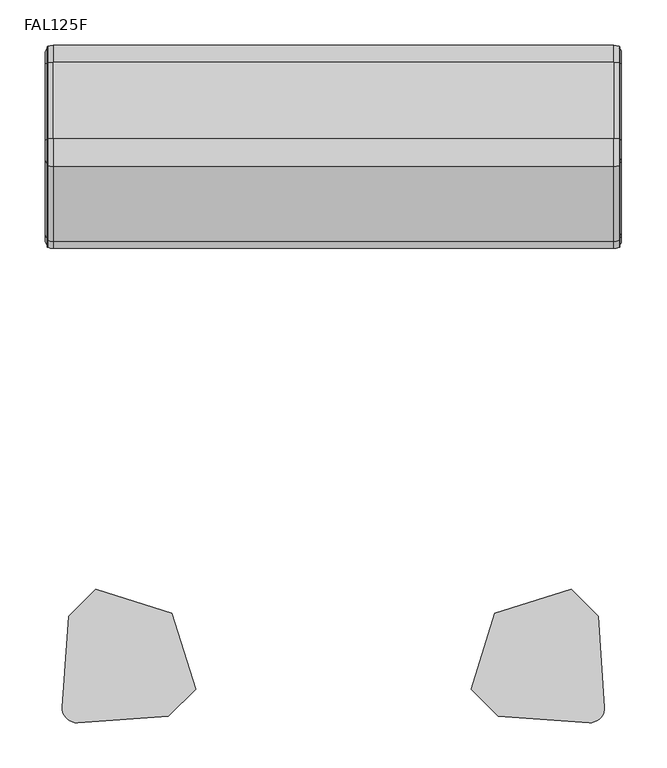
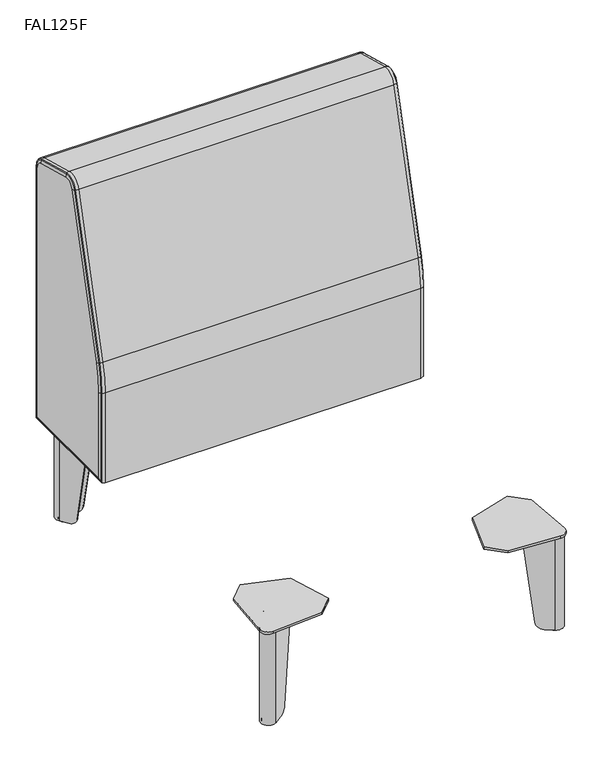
"""IFC4 building model written with IfcOpenShell, lengths in millimetres: furniture geometry, Stance_HC-Flora-Seat_Straight : FAL125F."""

from ifc_helpers import new_model, si_unit, point, frame, frame_2d, origin, origin_with_axes, place, context, project, spatial, polyline, circle_curve, ellipse_curve, trimmed, segment, composite_curve, outline, extrude, source, transform, mapped, element, save
from ifc_brep_helpers import plane_surface, cylinder_surface, revolved_surface, advanced_brep


def fal125f_d0898467(model_context):
    return source(origin(), model_context, "Body", "SolidModel", [
        extrude(outline(composite_curve([segment(trimmed(circle_curve(frame_2d((600.4438064, -31.3811988)), 15.8749964), [point((599.3364228, -15.5448732))], [point((616.2801321, -32.4885822))], False, "CARTESIAN"), True, "CONTINUOUS"), segment(polyline([(616.2801321, -32.4885822), (609.2831602, -132.5499778), (579.4327865, -162.4003462), (495.4896864, -136.3353271), (469.4246518, -52.3922188), (499.2750239, -22.5418467), (599.3364228, -15.5448732)]), True, "CONTINUOUS")], self_intersect=False)), frame((0.0, 0.0, 193.6877233), z_axis=(0.0, 0.0, 1.0), x_axis=(1.0, 0.0, 0.0)), (0.0, 0.0, 1.0), 4.7751809),
        extrude(outline(composite_curve([segment(polyline([(579.1692791, -729.4814086), (599.3063601, -709.3443276), (608.6225874, -722.6492273)]), True, "CONTINUOUS"), segment(trimmed(circle_curve(frame_2d((599.1246983, -729.2997467)), 11.5947965), [point((608.6225874, -722.6492273))], [point((592.4741789, -738.7976359))], False, "CARTESIAN"), True, "CONTINUOUS"), segment(polyline([(592.4741789, -738.7976359), (579.1692791, -729.4814086)]), True, "CONTINUOUS")], self_intersect=False)), frame((0.0, 0.0, 3.175), z_axis=(0.0, 0.0, 1.0), x_axis=(1.0, 0.0, 0.0)), (0.0, 0.0, 1.0), 3.3792927),
        advanced_brep(
        [(579.3314582, -675.2134177, 193.6877233), (576.6984809, -677.0570554, 193.6877233), (608.6225874, -722.6492273, 193.6877233), (592.4741789, -738.7976359, 193.6877233), (546.8820096, -706.8735312, 193.6877233), (545.0383719, -709.5065086, 193.6877233), (590.6305412, -741.4306132, 193.6877233), (611.2555647, -720.8055896, 193.6877233), (579.3314582, -675.2134177, 189.1419595), (589.3247818, -695.0892118, 17.1280233), (598.5018779, -708.1954123, 3.1876992), (608.6225874, -722.6492273, 3.1876992), (592.4741789, -738.7976359, 3.1876992), (578.0203639, -728.6769263, 3.1876992), (564.9141633, -719.4998302, 17.1280233), (545.0383719, -709.5065086, 189.1419334), (562.6062656, -721.8077279, 17.1280233), (575.7124662, -730.984824, 3.1876992), (590.6305412, -741.4306132, 3.1876992), (611.2555647, -720.8055896, 3.1876992), (600.8097756, -705.8875146, 3.1876992), (591.6326795, -692.781314, 17.1280233)],
        [
            (0, 1),
            (1, 2),
            (2, 3, circle_curve(frame((599.1246983, -729.2997467, 193.6877233), z_axis=(0.0, 0.0, -1.0), x_axis=(-1.0, 0.0, 0.0)), 11.5947965)),
            (3, 4),
            (4, 5),
            (5, 6),
            (6, 7, circle_curve(frame((599.1246983, -729.2997467, 193.6877233), z_axis=(0.0, 0.0, 1.0), x_axis=(-1.0, 0.0, 0.0)), 14.8090724)),
            (7, 0),
            (0, 8),
            (8, 1),
            (1, 9),
            (9, 10, ellipse_curve(frame((598.5018779, -708.1954123, 19.0626992), z_axis=(-0.8191509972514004, -0.5735779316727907, 0.0), x_axis=(-0.5735779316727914, 0.8191509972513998, 0.0)), 16.1198923, 15.875)),
            (10, 11),
            (11, 2),
            (11, 12, circle_curve(frame((599.1246983, -729.2997467, 3.1876992), z_axis=(0.0, 0.0, -1.0), x_axis=(-1.0, 0.0, 0.0)), 11.5947965)),
            (12, 3),
            (12, 13),
            (13, 14, ellipse_curve(frame((578.0203639, -728.6769263, 19.0626992), z_axis=(0.5735779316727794, 0.8191509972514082, 0.0), x_axis=(0.8191509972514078, -0.5735779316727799, 0.0)), 16.1198923, 15.875)),
            (14, 4),
            (4, 15),
            (15, 5),
            (15, 16),
            (16, 17, ellipse_curve(frame((575.7124662, -730.984824, 19.0626992), z_axis=(-0.5735779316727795, -0.8191509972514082, 0.0), x_axis=(0.8191509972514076, -0.5735779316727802, 0.0)), 16.1198923, 15.875)),
            (17, 18),
            (18, 6),
            (18, 19, circle_curve(frame((599.1246983, -729.2997467, 3.1876992), z_axis=(0.0, 0.0, 1.0), x_axis=(-1.0, 0.0, 0.0)), 14.8090724)),
            (19, 7),
            (19, 20),
            (20, 21, ellipse_curve(frame((600.8097756, -705.8875146, 19.0626992), z_axis=(0.8191509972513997, 0.5735779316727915, 0.0), x_axis=(-0.573577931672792, 0.8191509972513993, 0.0)), 16.1198923, 15.875)),
            (21, 8),
            (14, 16),
            (21, 9),
            (17, 13),
            (10, 20),
        ],
        [
            plane_surface(frame((576.6984809, -677.0570554, 193.6877233), z_axis=(0.0, 0.0, 0.9999999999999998), x_axis=(-0.8191509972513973, -0.5735779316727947, 0.0))),
            plane_surface(frame((579.3314582, -675.2134177, 193.6877233), z_axis=(-0.5735779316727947, 0.8191509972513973, 0.0), x_axis=(0.0, 0.0, -1.0))),
            plane_surface(frame((576.6984809, -677.0570554, 193.6877233), z_axis=(-0.8191509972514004, -0.5735779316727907, 0.0), x_axis=(0.0, 0.0, -1.0))),
            revolved_surface(polyline([(587.5299018, -729.2997467, 3.1876992), (587.5299018, -729.2997467, 193.6877233)]), (599.1246983, -729.2997467, 0.0), (0.0, 0.0, -1.0)),
            plane_surface(frame((592.4741789, -738.7976359, 193.6877233), z_axis=(0.5735779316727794, 0.8191509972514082, 0.0), x_axis=(0.0, 0.0, -1.0))),
            plane_surface(frame((546.8820096, -706.8735312, 193.6877233), z_axis=(-0.8191509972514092, 0.5735779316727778, 0.0), x_axis=(0.0, 0.0, -1.0))),
            plane_surface(frame((545.0383719, -709.5065086, 193.6877233), z_axis=(-0.5735779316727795, -0.8191509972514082, 0.0), x_axis=(0.0, 0.0, -1.0))),
            cylinder_surface(frame((599.1246983, -729.2997467, 0.0), z_axis=(0.0, 0.0, 1.0), x_axis=(-1.0, 0.0, 0.0)), 14.8090724),
            plane_surface(frame((611.2555647, -720.8055896, 193.6877233), z_axis=(0.8191509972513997, 0.5735779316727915, 0.0), x_axis=(0.0, 0.0, -1.0))),
            plane_surface(frame((556.7224625, -727.6915311, 17.1280233), z_axis=(-0.7018361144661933, 0.7018361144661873, -0.12186934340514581), x_axis=(0.7071067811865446, 0.7071067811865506, 0.0))),
            plane_surface(frame((589.212818, -760.1818865, 3.1876992), z_axis=(0.0, 0.0, -1.0), x_axis=(0.7071067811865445, 0.7071067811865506, 0.0))),
            cylinder_surface(frame((608.6497538, -698.0475363, 19.0626992), z_axis=(0.7071067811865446, 0.7071067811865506, 0.0), x_axis=(-0.7071067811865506, 0.7071067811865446, 0.0)), 15.875),
        ],
        [
            (0, [[1, 2, 3, 4, 5, 6, 7, 8]]),
            (1, [[-1, 9, 10]]),
            (2, [[-2, 11, 12, 13, 14]]),
            (3, [[-3, -14, 15, 16]]),
            (4, [[-4, -16, 17, 18, 19]]),
            (5, [[-5, 20, 21]]),
            (6, [[-6, -21, 22, 23, 24, 25]]),
            (7, [[-7, -25, 26, 27]]),
            (8, [[-8, -27, 28, 29, 30, -9]]),
            (9, [[31, -22, -20, -19]]),
            (9, [[32, -11, -10, -30]]),
            (10, [[33, -17, -15, -13, 34, -28, -26, -24]]),
            (11, [[-31, -18, -33, -23]]),
            (11, [[-32, -29, -34, -12]]),
        ],
    ),
        extrude(outline(composite_curve([segment(trimmed(circle_curve(frame_2d((597.0913541, -727.2747796)), 11.1125), [point((608.2038541, -727.2747796))], [point((585.9788541, -727.2747796))], False, "CARTESIAN"), True, "CONTINUOUS"), segment(trimmed(circle_curve(frame_2d((597.0913541, -727.2747796)), 11.1125), [point((585.9788541, -727.2747796))], [point((608.2038541, -727.2747796))], False, "CARTESIAN"), True, "CONTINUOUS")], self_intersect=False)), origin_with_axes(), (0.0, 0.0, 1.0), 3.175),
        extrude(outline(composite_curve([segment(polyline([(599.3364228, -746.4551813), (499.2750239, -739.4582078), (469.4246518, -709.6078357), (495.4896864, -625.6647274), (579.4327865, -599.5997083), (609.2831602, -629.4500767), (616.2801321, -729.5114723)]), True, "CONTINUOUS"), segment(trimmed(circle_curve(frame_2d((600.4438064, -730.6188557)), 15.8749964), [point((616.2801321, -729.5114723))], [point((599.3364228, -746.4551813))], False, "CARTESIAN"), True, "CONTINUOUS")], self_intersect=False)), frame((0.0, 0.0, 193.6877233), z_axis=(0.0, 0.0, 1.0), x_axis=(1.0, 0.0, 0.0)), (0.0, 0.0, 1.0), 4.7751809),
        extrude(outline(composite_curve([segment(polyline([(55.8307262, -729.4814086), (42.5258264, -738.7976359)]), True, "CONTINUOUS"), segment(trimmed(circle_curve(frame_2d((35.875307, -729.2997467)), 11.5947965), [point((42.5258264, -738.7976359))], [point((26.3774179, -722.6492273))], False, "CARTESIAN"), True, "CONTINUOUS"), segment(polyline([(26.3774179, -722.6492273), (35.6936452, -709.3443276), (55.8307262, -729.4814086)]), True, "CONTINUOUS")], self_intersect=False)), frame((0.0, 0.0, 3.175), z_axis=(0.0, 0.0, 1.0), x_axis=(1.0, 0.0, 0.0)), (0.0, 0.0, 1.0), 3.3792927),
        advanced_brep(
        [(55.6685471, -675.2134177, 193.6877233), (23.7444406, -720.8055896, 193.6877233), (44.3694641, -741.4306132, 193.6877233), (89.9616334, -709.5065086, 193.6877233), (88.1179957, -706.8735312, 193.6877233), (42.5258264, -738.7976359, 193.6877233), (26.3774179, -722.6492273, 193.6877233), (58.3015244, -677.0570554, 193.6877233), (55.6685471, -675.2134177, 189.1419595), (26.3774179, -722.6492273, 3.1876992), (36.4981274, -708.1954123, 3.1876992), (45.6752235, -695.0892118, 17.1280233), (42.5258264, -738.7976359, 3.1876992), (70.085842, -719.4998302, 17.1280233), (56.9796414, -728.6769263, 3.1876992), (89.9616334, -709.5065086, 189.1419334), (44.3694641, -741.4306132, 3.1876992), (59.2875391, -730.984824, 3.1876992), (72.3937397, -721.8077279, 17.1280233), (23.7444406, -720.8055896, 3.1876992), (43.3673258, -692.781314, 17.1280233), (34.1902297, -705.8875146, 3.1876992)],
        [
            (0, 1),
            (1, 2, circle_curve(frame((35.875307, -729.2997467, 193.6877233), z_axis=(0.0, 0.0, 1.0), x_axis=(1.0, 0.0, 0.0)), 14.8090724)),
            (2, 3),
            (3, 4),
            (4, 5),
            (5, 6, circle_curve(frame((35.875307, -729.2997467, 193.6877233), z_axis=(0.0, 0.0, -1.0), x_axis=(1.0, 0.0, 0.0)), 11.5947965)),
            (6, 7),
            (7, 0),
            (7, 8),
            (8, 0),
            (6, 9),
            (9, 10),
            (10, 11, ellipse_curve(frame((36.4981274, -708.1954123, 19.0626992), z_axis=(0.8191509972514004, -0.5735779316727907, 0.0), x_axis=(0.5735779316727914, 0.8191509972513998, 0.0)), 16.1198923, 15.875)),
            (11, 7),
            (5, 12),
            (12, 9, circle_curve(frame((35.875307, -729.2997467, 3.1876992), z_axis=(0.0, 0.0, -1.0), x_axis=(1.0, 0.0, 0.0)), 11.5947965)),
            (4, 13),
            (13, 14, ellipse_curve(frame((56.9796414, -728.6769263, 19.0626992), z_axis=(-0.5735779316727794, 0.8191509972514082, 0.0), x_axis=(-0.8191509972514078, -0.5735779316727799, 0.0)), 16.1198923, 15.875)),
            (14, 12),
            (3, 15),
            (15, 4),
            (2, 16),
            (16, 17),
            (17, 18, ellipse_curve(frame((59.2875391, -730.984824, 19.0626992), z_axis=(0.5735779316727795, -0.8191509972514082, 0.0), x_axis=(-0.8191509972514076, -0.5735779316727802, 0.0)), 16.1198923, 15.875)),
            (18, 15),
            (1, 19),
            (19, 16, circle_curve(frame((35.875307, -729.2997467, 3.1876992), z_axis=(0.0, 0.0, 1.0), x_axis=(1.0, 0.0, 0.0)), 14.8090724)),
            (8, 20),
            (20, 21, ellipse_curve(frame((34.1902297, -705.8875146, 19.0626992), z_axis=(-0.8191509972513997, 0.5735779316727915, 0.0), x_axis=(0.573577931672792, 0.8191509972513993, 0.0)), 16.1198923, 15.875)),
            (21, 19),
            (18, 13),
            (11, 20),
            (21, 10),
            (14, 17),
        ],
        [
            plane_surface(frame((58.3015244, -677.0570554, 193.6877233), z_axis=(0.0, 0.0, 0.9999999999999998), x_axis=(0.8191509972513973, -0.5735779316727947, 0.0))),
            plane_surface(frame((55.6685471, -675.2134177, 193.6877233), z_axis=(0.5735779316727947, 0.8191509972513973, 0.0), x_axis=(0.0, 0.0, -1.0))),
            plane_surface(frame((58.3015244, -677.0570554, 193.6877233), z_axis=(0.8191509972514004, -0.5735779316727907, 0.0), x_axis=(0.0, 0.0, -1.0))),
            revolved_surface(polyline([(47.4701035, -729.2997467, 3.1876992), (47.4701035, -729.2997467, 193.6877233)]), (35.875307, -729.2997467, 0.0), (0.0, 0.0, -1.0)),
            plane_surface(frame((42.5258264, -738.7976359, 193.6877233), z_axis=(-0.5735779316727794, 0.8191509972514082, 0.0), x_axis=(0.0, 0.0, -1.0))),
            plane_surface(frame((88.1179957, -706.8735312, 193.6877233), z_axis=(0.8191509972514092, 0.5735779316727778, 0.0), x_axis=(0.0, 0.0, -1.0))),
            plane_surface(frame((89.9616334, -709.5065086, 193.6877233), z_axis=(0.5735779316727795, -0.8191509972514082, 0.0), x_axis=(0.0, 0.0, -1.0))),
            cylinder_surface(frame((35.875307, -729.2997467, 0.0), z_axis=(0.0, 0.0, 1.0), x_axis=(1.0, 0.0, 0.0)), 14.8090724),
            plane_surface(frame((23.7444406, -720.8055896, 193.6877233), z_axis=(-0.8191509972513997, 0.5735779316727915, 0.0), x_axis=(0.0, 0.0, -1.0))),
            plane_surface(frame((78.2775428, -727.6915311, 17.1280233), z_axis=(0.7018361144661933, 0.7018361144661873, -0.12186934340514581), x_axis=(-0.7071067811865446, 0.7071067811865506, 0.0))),
            plane_surface(frame((45.7871873, -760.1818865, 3.1876992), z_axis=(0.0, 0.0, -1.0), x_axis=(-0.7071067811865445, 0.7071067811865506, 0.0))),
            cylinder_surface(frame((26.3502515, -698.0475363, 19.0626992), z_axis=(-0.7071067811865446, 0.7071067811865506, 0.0), x_axis=(0.7071067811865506, 0.7071067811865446, 0.0)), 15.875),
        ],
        [
            (0, [[1, 2, 3, 4, 5, 6, 7, 8]]),
            (1, [[9, 10, -8]]),
            (2, [[11, 12, 13, 14, -7]]),
            (3, [[15, 16, -11, -6]]),
            (4, [[17, 18, 19, -15, -5]]),
            (5, [[20, 21, -4]]),
            (6, [[22, 23, 24, 25, -20, -3]]),
            (7, [[26, 27, -22, -2]]),
            (8, [[-10, 28, 29, 30, -26, -1]]),
            (9, [[-17, -21, -25, 31]]),
            (9, [[-28, -9, -14, 32]]),
            (10, [[-23, -27, -30, 33, -12, -16, -19, 34]]),
            (11, [[-13, -33, -29, -32]]),
            (11, [[-24, -34, -18, -31]]),
        ],
    ),
        extrude(outline(composite_curve([segment(trimmed(circle_curve(frame_2d((37.9086512, -727.2747796)), 11.1125), [point((26.7961512, -727.2747796))], [point((49.0211512, -727.2747796))], False, "CARTESIAN"), True, "CONTINUOUS"), segment(trimmed(circle_curve(frame_2d((37.9086512, -727.2747796)), 11.1125), [point((49.0211512, -727.2747796))], [point((26.7961512, -727.2747796))], False, "CARTESIAN"), True, "CONTINUOUS")], self_intersect=False)), origin_with_axes(), (0.0, 0.0, 1.0), 3.175),
        extrude(outline(composite_curve([segment(trimmed(circle_curve(frame_2d((34.5561989, -730.6188557)), 15.8749964), [point((35.6635825, -746.4551813))], [point((18.7198732, -729.5114723))], False, "CARTESIAN"), True, "CONTINUOUS"), segment(polyline([(18.7198732, -729.5114723), (25.7168451, -629.4500767), (55.5672188, -599.5997083), (139.5103189, -625.6647274), (165.5753535, -709.6078357), (135.7249814, -739.4582078), (35.6635825, -746.4551813)]), True, "CONTINUOUS")], self_intersect=False)), frame((0.0, 0.0, 193.6877233), z_axis=(0.0, 0.0, 1.0), x_axis=(1.0, 0.0, 0.0)), (0.0, 0.0, 1.0), 4.7751809),
        extrude(outline(composite_curve([segment(polyline([(55.8307262, -32.5186459), (35.6936452, -52.6557269), (26.3774179, -39.3508272)]), True, "CONTINUOUS"), segment(trimmed(circle_curve(frame_2d((35.875307, -32.7003078)), 11.5947965), [point((26.3774179, -39.3508272))], [point((42.5258264, -23.2024186))], False, "CARTESIAN"), True, "CONTINUOUS"), segment(polyline([(42.5258264, -23.2024186), (55.8307262, -32.5186459)]), True, "CONTINUOUS")], self_intersect=False)), frame((0.0, 0.0, 3.175), z_axis=(0.0, 0.0, 1.0), x_axis=(1.0, 0.0, 0.0)), (0.0, 0.0, 1.0), 3.3792927),
        advanced_brep(
        [(55.6685471, -86.7866368, 193.6877233), (58.3015244, -84.9429991, 193.6877233), (26.3774179, -39.3508272, 193.6877233), (42.5258264, -23.2024186, 193.6877233), (88.1179957, -55.1265233, 193.6877233), (89.9616334, -52.4935459, 193.6877233), (44.3694641, -20.5694413, 193.6877233), (23.7444406, -41.1944649, 193.6877233), (55.6685471, -86.7866368, 189.1419595), (45.6752235, -66.9108427, 17.1280233), (36.4981274, -53.8046422, 3.1876992), (26.3774179, -39.3508272, 3.1876992), (42.5258264, -23.2024186, 3.1876992), (56.9796414, -33.3231282, 3.1876992), (70.085842, -42.5002243, 17.1280233), (89.9616334, -52.4935459, 189.1419334), (72.3937397, -40.1923266, 17.1280233), (59.2875391, -31.0152305, 3.1876992), (44.3694641, -20.5694413, 3.1876992), (23.7444406, -41.1944649, 3.1876992), (34.1902297, -56.1125399, 3.1876992), (43.3673258, -69.2187405, 17.1280233)],
        [
            (0, 1),
            (1, 2),
            (2, 3, circle_curve(frame((35.875307, -32.7003078, 193.6877233), z_axis=(0.0, 0.0, -1.0), x_axis=(1.0, 0.0, 0.0)), 11.5947965)),
            (3, 4),
            (4, 5),
            (5, 6),
            (6, 7, circle_curve(frame((35.875307, -32.7003078, 193.6877233), z_axis=(0.0, 0.0, 1.0), x_axis=(1.0, 0.0, 0.0)), 14.8090724)),
            (7, 0),
            (0, 8),
            (8, 1),
            (1, 9),
            (9, 10, ellipse_curve(frame((36.4981274, -53.8046422, 19.0626992), z_axis=(0.8191509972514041, 0.5735779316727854, 0.0), x_axis=(0.5735779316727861, -0.8191509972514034, 0.0)), 16.1198923, 15.875)),
            (10, 11),
            (11, 2),
            (11, 12, circle_curve(frame((35.875307, -32.7003078, 3.1876992), z_axis=(0.0, 0.0, -1.0), x_axis=(1.0, 0.0, 0.0)), 11.5947965)),
            (12, 3),
            (12, 13),
            (13, 14, ellipse_curve(frame((56.9796414, -33.3231282, 19.0626992), z_axis=(-0.5735779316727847, -0.8191509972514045, 0.0), x_axis=(-0.8191509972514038, 0.5735779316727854, 0.0)), 16.1198923, 15.875)),
            (14, 4),
            (4, 15),
            (15, 5),
            (15, 16),
            (16, 17, ellipse_curve(frame((59.2875391, -31.0152305, 19.0626992), z_axis=(0.5735779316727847, 0.8191509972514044, 0.0), x_axis=(-0.8191509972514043, 0.573577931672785, 0.0)), 16.1198923, 15.875)),
            (17, 18),
            (18, 6),
            (18, 19, circle_curve(frame((35.875307, -32.7003078, 3.1876992), z_axis=(0.0, 0.0, 1.0), x_axis=(1.0, 0.0, 0.0)), 14.8090724)),
            (19, 7),
            (19, 20),
            (20, 21, ellipse_curve(frame((34.1902297, -56.1125399, 19.0626992), z_axis=(-0.8191509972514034, -0.5735779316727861, 0.0), x_axis=(0.5735779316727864, -0.8191509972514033, 0.0)), 16.1198923, 15.875)),
            (21, 8),
            (14, 16),
            (21, 9),
            (17, 13),
            (10, 20),
        ],
        [
            plane_surface(frame((58.3015244, -84.9429991, 193.6877233), z_axis=(0.0, 0.0, 1.0000000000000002), x_axis=(0.8191509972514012, 0.5735779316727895, 0.0))),
            plane_surface(frame((55.6685471, -86.7866368, 193.6877233), z_axis=(0.5735779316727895, -0.8191509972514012, 0.0), x_axis=(0.0, 0.0, -1.0))),
            plane_surface(frame((58.3015244, -84.9429991, 193.6877233), z_axis=(0.8191509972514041, 0.5735779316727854, 0.0), x_axis=(0.0, 0.0, -1.0))),
            revolved_surface(polyline([(47.4701035, -32.7003078, 3.1876992), (47.4701035, -32.7003078, 193.6877233)]), (35.875307, -32.7003078, 0.0), (0.0, 0.0, -1.0)),
            plane_surface(frame((42.5258264, -23.2024186, 193.6877233), z_axis=(-0.5735779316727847, -0.8191509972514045, 0.0), x_axis=(0.0, 0.0, -1.0))),
            plane_surface(frame((88.1179957, -55.1265233, 193.6877233), z_axis=(0.8191509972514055, -0.5735779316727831, 0.0), x_axis=(0.0, 0.0, -1.0))),
            plane_surface(frame((89.9616334, -52.4935459, 193.6877233), z_axis=(0.5735779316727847, 0.8191509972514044, 0.0), x_axis=(0.0, 0.0, -1.0))),
            cylinder_surface(frame((35.875307, -32.7003078, 0.0), z_axis=(0.0, 0.0, 1.0), x_axis=(1.0, 0.0, 0.0)), 14.8090724),
            plane_surface(frame((23.7444406, -41.1944649, 193.6877233), z_axis=(-0.8191509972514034, -0.5735779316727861, 0.0), x_axis=(0.0, 0.0, -1.0))),
            plane_surface(frame((78.2775428, -34.3085234, 17.1280233), z_axis=(0.7018361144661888, -0.7018361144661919, -0.12186934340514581), x_axis=(-0.7071067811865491, -0.707106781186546, 0.0))),
            plane_surface(frame((45.7871873, -1.818168, 3.1876992), z_axis=(0.0, 0.0, -1.0), x_axis=(-0.707106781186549, -0.707106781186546, 0.0))),
            cylinder_surface(frame((26.3502515, -63.9525182, 19.0626992), z_axis=(-0.7071067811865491, -0.707106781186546, 0.0), x_axis=(0.707106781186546, -0.7071067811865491, 0.0)), 15.875),
        ],
        [
            (0, [[1, 2, 3, 4, 5, 6, 7, 8]]),
            (1, [[-1, 9, 10]]),
            (2, [[-2, 11, 12, 13, 14]]),
            (3, [[-3, -14, 15, 16]]),
            (4, [[-4, -16, 17, 18, 19]]),
            (5, [[-5, 20, 21]]),
            (6, [[-6, -21, 22, 23, 24, 25]]),
            (7, [[-7, -25, 26, 27]]),
            (8, [[-8, -27, 28, 29, 30, -9]]),
            (9, [[31, -22, -20, -19]]),
            (9, [[32, -11, -10, -30]]),
            (10, [[33, -17, -15, -13, 34, -28, -26, -24]]),
            (11, [[-31, -18, -33, -23]]),
            (11, [[-32, -29, -34, -12]]),
        ],
    ),
        extrude(outline(composite_curve([segment(trimmed(circle_curve(frame_2d((37.9086512, -34.7252749)), 11.1125), [point((26.7961512, -34.7252749))], [point((49.0211512, -34.7252749))], False, "CARTESIAN"), True, "CONTINUOUS"), segment(trimmed(circle_curve(frame_2d((37.9086512, -34.7252749)), 11.1125), [point((49.0211512, -34.7252749))], [point((26.7961512, -34.7252749))], False, "CARTESIAN"), True, "CONTINUOUS")], self_intersect=False)), origin_with_axes(), (0.0, 0.0, 1.0), 3.175),
        extrude(outline(composite_curve([segment(polyline([(35.6635825, -15.5448732), (135.7249814, -22.5418467), (165.5753535, -52.3922188), (139.5103189, -136.3353271), (55.5672188, -162.4003462), (25.7168451, -132.5499778), (18.7198732, -32.4885822)]), True, "CONTINUOUS"), segment(trimmed(circle_curve(frame_2d((34.5561989, -31.3811988)), 15.8749964), [point((18.7198732, -32.4885822))], [point((35.6635825, -15.5448732))], False, "CARTESIAN"), True, "CONTINUOUS")], self_intersect=False)), frame((0.0, 0.0, 193.6877233), z_axis=(0.0, 0.0, 1.0), x_axis=(1.0, 0.0, 0.0)), (0.0, 0.0, 1.0), 4.7751809),
        advanced_brep(
        [(635.0, -215.1189491, 207.1687439), (635.0, -8.73125, 207.1687439), (635.0, -8.73125, 722.1009668), (635.0, -21.0858009, 738.2017405), (635.0, -104.6844084, 760.6019706), (635.0, -125.0993835, 748.8153873), (635.0, -207.6271017, 440.8177792), (635.0, -215.1189491, 383.9115542), (0.0, -8.73125, 207.1687439), (0.0, -215.1189491, 207.1687439), (0.0, -215.1189491, 383.9115542), (0.0, -207.6271017, 440.8177792), (0.0, -125.0993835, 748.8153873), (0.0, -104.6844084, 760.6019706), (0.0, -21.0858009, 738.2017405), (0.0, -8.73125, 722.1009668), (626.5158065, -223.8501991, 198.4374939), (8.4841935, -223.8501991, 198.4374939), (8.4841935, 0.0, 198.4374939), (626.5158065, 0.0, 198.4374939), (626.5158065, -18.8259823, 746.6354791), (8.4841935, -18.8259823, 746.6354791), (8.4841935, -102.4245898, 769.0357092), (626.5158065, -102.4245898, 769.0357092), (2.6434528, -220.8119186, 201.4757744), (2.6434528, -3.0382805, 201.4757744), (2.5810757, -1.1045908, 199.5420847), (2.5810757, -222.7456083, 199.5420847), (2.6434528, -19.6123489, 743.7007259), (2.6434528, -103.2109563, 766.1009561), (2.5810757, -102.7104795, 767.9687566), (2.5810757, -19.1118721, 745.5685265), (632.4189243, -1.1045908, 199.5420847), (632.4189243, -222.7456083, 199.5420847), (632.3565472, -3.0382805, 201.4757744), (632.3565472, -220.8119186, 201.4757744), (632.4189243, -102.7104795, 767.9687566), (632.4189243, -19.1118721, 745.5685265), (632.3565472, -103.2109563, 766.1009561), (632.3565472, -19.6123489, 743.7007259), (626.5158065, 0.0, 722.1009668), (632.4189243, -1.1045908, 722.1009668), (632.3565472, -3.0382805, 722.1009668), (2.6434528, -3.0382805, 722.1009668), (2.5810757, -1.1045908, 722.1009668), (8.4841935, 0.0, 722.1009668), (626.5158065, -133.5331233, 751.0752013), (632.4189243, -132.4661705, 750.7893121), (632.3565472, -130.5983697, 750.2888364), (2.6434528, -130.5983697, 750.2888364), (2.5810757, -132.4661705, 750.7893121), (8.4841935, -133.5331233, 751.0752013), (626.5158065, -216.0608416, 443.0775932), (632.4189243, -214.9938888, 442.791704), (632.3565472, -213.126088, 442.2912283), (2.6434528, -213.126088, 442.2912283), (2.5810757, -214.9938888, 442.791704), (8.4841935, -216.0608416, 443.0775932), (626.5158065, -223.8501991, 383.9115542), (632.4189243, -222.7456083, 383.9115542), (632.3565472, -220.8119186, 383.9115542), (2.6434528, -220.8119186, 383.9115542), (2.5810757, -222.7456083, 383.9115542), (8.4841935, -223.8501991, 383.9115542)],
        [
            (0, 1),
            (1, 2),
            (2, 3, circle_curve(frame((635.0, -25.4, 722.1009668), z_axis=(1.0, 0.0, 0.0), x_axis=(0.0, 1.0, 0.0)), 16.66875)),
            (3, 4),
            (4, 5, circle_curve(frame((635.0, -108.9986074, 744.501197), z_axis=(1.0, 0.0, 0.0), x_axis=(0.0, 0.25881959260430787, 0.9659256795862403)), 16.66875)),
            (5, 6),
            (6, 7, circle_curve(frame((635.0, 4.7498009, 383.9115542), z_axis=(1.0, 0.0, 0.0), x_axis=(0.0, -0.9659258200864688, 0.25881906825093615)), 219.86875)),
            (7, 0),
            (8, 9),
            (9, 10),
            (10, 11, circle_curve(frame((0.0, 4.7498009, 383.9115542), z_axis=(-1.0, 0.0, 0.0), x_axis=(0.0, -0.9659258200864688, 0.25881906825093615)), 219.86875)),
            (11, 12),
            (12, 13, circle_curve(frame((0.0, -108.9986074, 744.501197), z_axis=(-1.0, 0.0, 0.0), x_axis=(0.0, 0.25881959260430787, 0.9659256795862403)), 16.66875)),
            (13, 14),
            (14, 15, circle_curve(frame((0.0, -25.4, 722.1009668), z_axis=(-1.0, 0.0, 0.0), x_axis=(0.0, 1.0, 0.0)), 16.66875)),
            (15, 8),
            (16, 17),
            (17, 18),
            (18, 19),
            (19, 16),
            (20, 21),
            (21, 22),
            (22, 23),
            (23, 20),
            (24, 9, ellipse_curve(frame((7.4519478, -215.1189491, 207.1687439), z_axis=(0.0, 0.707106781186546, -0.7071067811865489), x_axis=(0.0, -0.7071067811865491, -0.7071067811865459)), 10.5386456, 7.4519478)),
            (8, 25, ellipse_curve(frame((7.4519478, -8.73125, 207.1687439), z_axis=(0.0, -0.707106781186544, -0.707106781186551), x_axis=(0.0, -0.7071067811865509, 0.707106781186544)), 10.5386456, 7.4519478)),
            (25, 24),
            (25, 26, ellipse_curve(frame((2.9517888, -2.0604832, 200.4979772), z_axis=(0.0, -0.707106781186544, -0.707106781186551), x_axis=(0.0, -0.7071067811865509, 0.707106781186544)), 1.4499369, 1.0252602)),
            (26, 27),
            (27, 24, ellipse_curve(frame((2.9517888, -221.7897159, 200.4979772), z_axis=(0.0, 0.707106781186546, -0.7071067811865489), x_axis=(0.0, -0.7071067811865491, -0.7071067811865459)), 1.4499369, 1.0252602)),
            (17, 27, ellipse_curve(frame((8.4841935, -207.52428, 214.763413), z_axis=(0.0, 0.707106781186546, -0.7071067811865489), x_axis=(0.0, -0.7071067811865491, -0.7071067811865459)), 23.0883362, 16.3259191)),
            (26, 18, ellipse_curve(frame((8.4841935, -16.3259191, 214.763413), z_axis=(0.0, -0.707106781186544, -0.707106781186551), x_axis=(0.0, -0.7071067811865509, 0.707106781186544)), 23.0883362, 16.3259191)),
            (28, 14, circle_curve(frame((7.4519478, -21.0858009, 738.2017405), z_axis=(0.0, -0.9659256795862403, 0.2588195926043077), x_axis=(0.0, -0.2588195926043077, -0.9659256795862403)), 7.4519478)),
            (13, 29, circle_curve(frame((7.4519478, -104.6844084, 760.6019706), z_axis=(0.0, 0.9659256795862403, -0.2588195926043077), x_axis=(0.0, -0.2588195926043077, -0.9659256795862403)), 7.4519478)),
            (29, 28),
            (29, 30, circle_curve(frame((2.9517888, -102.9578832, 767.0454356), z_axis=(0.0, 0.9659256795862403, -0.2588195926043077), x_axis=(0.0, -0.2588195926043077, -0.9659256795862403)), 1.0252602)),
            (30, 31),
            (31, 28, circle_curve(frame((2.9517888, -19.3592758, 744.6452054), z_axis=(0.0, -0.9659256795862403, 0.2588195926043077), x_axis=(0.0, -0.2588195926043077, -0.9659256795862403)), 1.0252602)),
            (21, 31, circle_curve(frame((8.4841935, -23.0514501, 730.8658546), z_axis=(0.0, -0.9659256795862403, 0.2588195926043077), x_axis=(0.0, -0.2588195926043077, -0.9659256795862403)), 16.3259191)),
            (30, 22, circle_curve(frame((8.4841935, -106.6500575, 753.2660847), z_axis=(0.0, 0.9659256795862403, -0.2588195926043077), x_axis=(0.0, -0.2588195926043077, -0.9659256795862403)), 16.3259191)),
            (19, 32, ellipse_curve(frame((626.5158065, -16.3259191, 214.763413), z_axis=(0.0, -0.707106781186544, -0.707106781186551), x_axis=(0.0, -0.7071067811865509, 0.707106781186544)), 23.0883362, 16.3259191)),
            (32, 33),
            (33, 16, ellipse_curve(frame((626.5158065, -207.52428, 214.763413), z_axis=(0.0, 0.707106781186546, -0.7071067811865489), x_axis=(0.0, -0.7071067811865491, -0.7071067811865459)), 23.0883362, 16.3259191)),
            (32, 34, ellipse_curve(frame((632.0482112, -2.0604832, 200.4979772), z_axis=(0.0, -0.707106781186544, -0.707106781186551), x_axis=(0.0, -0.7071067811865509, 0.707106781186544)), 1.4499369, 1.0252602)),
            (34, 35),
            (35, 33, ellipse_curve(frame((632.0482112, -221.7897159, 200.4979772), z_axis=(0.0, 0.707106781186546, -0.7071067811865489), x_axis=(0.0, -0.7071067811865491, -0.7071067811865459)), 1.4499369, 1.0252602)),
            (34, 1, ellipse_curve(frame((627.5480522, -8.73125, 207.1687439), z_axis=(0.0, -0.707106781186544, -0.707106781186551), x_axis=(0.0, -0.7071067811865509, 0.707106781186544)), 10.5386456, 7.4519478)),
            (0, 35, ellipse_curve(frame((627.5480522, -215.1189491, 207.1687439), z_axis=(0.0, 0.707106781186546, -0.7071067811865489), x_axis=(0.0, -0.7071067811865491, -0.7071067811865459)), 10.5386456, 7.4519478)),
            (23, 36, circle_curve(frame((626.5158065, -106.6500575, 753.2660847), z_axis=(0.0, 0.9659256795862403, -0.2588195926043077), x_axis=(0.0, -0.2588195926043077, -0.9659256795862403)), 16.3259191)),
            (36, 37),
            (37, 20, circle_curve(frame((626.5158065, -23.0514501, 730.8658546), z_axis=(0.0, -0.9659256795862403, 0.2588195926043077), x_axis=(0.0, -0.2588195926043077, -0.9659256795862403)), 16.3259191)),
            (36, 38, circle_curve(frame((632.0482112, -102.9578832, 767.0454356), z_axis=(0.0, 0.9659256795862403, -0.2588195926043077), x_axis=(0.0, -0.2588195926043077, -0.9659256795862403)), 1.0252602)),
            (38, 39),
            (39, 37, circle_curve(frame((632.0482112, -19.3592758, 744.6452054), z_axis=(0.0, -0.9659256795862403, 0.2588195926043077), x_axis=(0.0, -0.2588195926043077, -0.9659256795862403)), 1.0252602)),
            (38, 4, circle_curve(frame((627.5480522, -104.6844084, 760.6019706), z_axis=(0.0, 0.9659256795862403, -0.2588195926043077), x_axis=(0.0, -0.2588195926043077, -0.9659256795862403)), 7.4519478)),
            (3, 39, circle_curve(frame((627.5480522, -21.0858009, 738.2017405), z_axis=(0.0, -0.9659256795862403, 0.2588195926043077), x_axis=(0.0, -0.2588195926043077, -0.9659256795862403)), 7.4519478)),
            (19, 40),
            (40, 41, circle_curve(frame((626.5158065, -16.3259191, 722.1009668), z_axis=(0.0, 0.0, -1.0), x_axis=(0.0, -1.0, 0.0)), 16.3259191)),
            (41, 32),
            (41, 42, circle_curve(frame((632.0482112, -2.0604832, 722.1009668), z_axis=(0.0, 0.0, -1.0), x_axis=(0.0, -1.0, 0.0)), 1.0252602)),
            (42, 34),
            (42, 2, circle_curve(frame((627.5480522, -8.73125, 722.1009668), z_axis=(0.0, 0.0, -1.0), x_axis=(0.0, -1.0, 0.0)), 7.4519478)),
            (15, 43, circle_curve(frame((7.4519478, -8.73125, 722.1009668), z_axis=(0.0, 0.0, -1.0), x_axis=(0.0, -1.0, 0.0)), 7.4519478)),
            (43, 25),
            (43, 44, circle_curve(frame((2.9517888, -2.0604832, 722.1009668), z_axis=(0.0, 0.0, -1.0), x_axis=(0.0, -1.0, 0.0)), 1.0252602)),
            (44, 26),
            (44, 45, circle_curve(frame((8.4841935, -16.3259191, 722.1009668), z_axis=(0.0, 0.0, -1.0), x_axis=(0.0, -1.0, 0.0)), 16.3259191)),
            (45, 18),
            (45, 40),
            (37, 41, circle_curve(frame((632.4189243, -25.4, 722.1009668), z_axis=(-1.0, 0.0, 0.0), x_axis=(0.0, 1.0, 0.0)), 24.2954092)),
            (40, 20, circle_curve(frame((626.5158065, -25.4, 722.1009668), z_axis=(1.0, 0.0, 0.0), x_axis=(0.0, 1.0, 0.0)), 25.4)),
            (39, 42, circle_curve(frame((632.3565472, -25.4, 722.1009668), z_axis=(-1.0, 0.0, 0.0), x_axis=(0.0, 1.0, 0.0)), 22.3617195)),
            (28, 43, circle_curve(frame((2.6434528, -25.4, 722.1009668), z_axis=(-1.0, 0.0, 0.0), x_axis=(0.0, 1.0, 0.0)), 22.3617195)),
            (31, 44, circle_curve(frame((2.5810757, -25.4, 722.1009668), z_axis=(-1.0, 0.0, 0.0), x_axis=(0.0, 1.0, 0.0)), 24.2954092)),
            (21, 45, circle_curve(frame((8.4841935, -25.4, 722.1009668), z_axis=(-1.0, 0.0, 0.0), x_axis=(0.0, 1.0, 0.0)), 25.4)),
            (23, 46, circle_curve(frame((626.5158065, -108.9986074, 744.501197), z_axis=(1.0, 0.0, 0.0), x_axis=(0.0, 0.25881959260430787, 0.9659256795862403)), 25.4)),
            (46, 47, circle_curve(frame((626.5158065, -117.7634965, 746.8497421), z_axis=(0.0, 0.2588190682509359, 0.9659258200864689), x_axis=(0.0, 0.9659258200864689, -0.2588190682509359)), 16.3259191)),
            (47, 36, circle_curve(frame((632.4189243, -108.9986074, 744.501197), z_axis=(-1.0, 0.0, 0.0), x_axis=(0.0, 0.25881959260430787, 0.9659256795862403)), 24.2954092)),
            (47, 48, circle_curve(frame((632.0482112, -131.5428493, 750.5419089), z_axis=(0.0, 0.25881906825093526, 0.9659258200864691), x_axis=(0.0, 0.9659258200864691, -0.25881906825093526)), 1.0252602)),
            (48, 38, circle_curve(frame((632.3565472, -108.9986074, 744.501197), z_axis=(-1.0, 0.0, 0.0), x_axis=(0.0, 0.25881959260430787, 0.9659256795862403)), 22.3617195)),
            (48, 5, circle_curve(frame((627.5480522, -125.0993835, 748.8153873), z_axis=(0.0, 0.2588190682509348, 0.9659258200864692), x_axis=(0.0, 0.9659258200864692, -0.2588190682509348)), 7.4519478)),
            (12, 49, circle_curve(frame((7.4519478, -125.0993835, 748.8153873), z_axis=(0.0, 0.2588190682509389, 0.9659258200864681), x_axis=(0.0, 0.9659258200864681, -0.2588190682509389)), 7.4519478)),
            (49, 29, circle_curve(frame((2.6434528, -108.9986074, 744.501197), z_axis=(-1.0, 0.0, 0.0), x_axis=(0.0, 0.25881959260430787, 0.9659256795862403)), 22.3617195)),
            (49, 50, circle_curve(frame((2.9517888, -131.5428493, 750.5419089), z_axis=(0.0, 0.2588190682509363, 0.9659258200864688), x_axis=(0.0, 0.9659258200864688, -0.2588190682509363)), 1.0252602)),
            (50, 30, circle_curve(frame((2.5810757, -108.9986074, 744.501197), z_axis=(-1.0, 0.0, 0.0), x_axis=(0.0, 0.25881959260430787, 0.9659256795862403)), 24.2954092)),
            (50, 51, circle_curve(frame((8.4841935, -117.7634965, 746.8497421), z_axis=(0.0, 0.25881906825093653, 0.9659258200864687), x_axis=(0.0, 0.9659258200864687, -0.25881906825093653)), 16.3259191)),
            (51, 22, circle_curve(frame((8.4841935, -108.9986074, 744.501197), z_axis=(-1.0, 0.0, 0.0), x_axis=(0.0, 0.25881959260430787, 0.9659256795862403)), 25.4)),
            (51, 46),
            (46, 52),
            (52, 53, circle_curve(frame((626.5158065, -200.2912148, 438.852134), z_axis=(0.0, 0.25881906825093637, 0.9659258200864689), x_axis=(0.0, 0.9659258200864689, -0.25881906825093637)), 16.3259191)),
            (53, 47),
            (53, 54, circle_curve(frame((632.0482112, -214.0705676, 442.5443008), z_axis=(0.0, 0.25881906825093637, 0.9659258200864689), x_axis=(0.0, 0.9659258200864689, -0.25881906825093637)), 1.0252602)),
            (54, 48),
            (54, 6, circle_curve(frame((627.5480522, -207.6271017, 440.8177792), z_axis=(0.0, 0.25881906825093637, 0.9659258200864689), x_axis=(0.0, 0.9659258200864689, -0.25881906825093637)), 7.4519478)),
            (11, 55, circle_curve(frame((7.4519478, -207.6271017, 440.8177792), z_axis=(0.0, 0.25881906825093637, 0.9659258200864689), x_axis=(0.0, 0.9659258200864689, -0.25881906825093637)), 7.4519478)),
            (55, 49),
            (55, 56, circle_curve(frame((2.9517888, -214.0705676, 442.5443008), z_axis=(0.0, 0.25881906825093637, 0.9659258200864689), x_axis=(0.0, 0.9659258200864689, -0.25881906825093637)), 1.0252602)),
            (56, 50),
            (56, 57, circle_curve(frame((8.4841935, -200.2912148, 438.852134), z_axis=(0.0, 0.25881906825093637, 0.9659258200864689), x_axis=(0.0, 0.9659258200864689, -0.25881906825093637)), 16.3259191)),
            (57, 51),
            (57, 52),
            (52, 58, circle_curve(frame((626.5158065, 4.7498009, 383.9115542), z_axis=(1.0, 0.0, 0.0), x_axis=(0.0, -0.9659258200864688, 0.25881906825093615)), 228.6)),
            (58, 59, circle_curve(frame((626.5158065, -207.52428, 383.9115542), z_axis=(0.0, 0.0, 1.0), x_axis=(0.0, 1.0, 0.0)), 16.3259191)),
            (59, 53, circle_curve(frame((632.4189243, 4.7498009, 383.9115542), z_axis=(-1.0, 0.0, 0.0), x_axis=(0.0, -0.9659258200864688, 0.25881906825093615)), 227.4954092)),
            (59, 60, circle_curve(frame((632.0482112, -221.7897159, 383.9115542), z_axis=(0.0, 0.0, 1.0), x_axis=(0.0, 1.0, 0.0)), 1.0252602)),
            (60, 54, circle_curve(frame((632.3565472, 4.7498009, 383.9115542), z_axis=(-1.0, 0.0, 0.0), x_axis=(0.0, -0.9659258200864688, 0.25881906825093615)), 225.5617195)),
            (60, 7, circle_curve(frame((627.5480522, -215.1189491, 383.9115542), z_axis=(0.0, 0.0, 1.0), x_axis=(0.0, 1.0, 0.0)), 7.4519478)),
            (10, 61, circle_curve(frame((7.4519478, -215.1189491, 383.9115542), z_axis=(0.0, 0.0, 0.9999999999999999), x_axis=(0.0, 0.9999999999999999, 0.0)), 7.4519478)),
            (61, 55, circle_curve(frame((2.6434528, 4.7498009, 383.9115542), z_axis=(-1.0, 0.0, 0.0), x_axis=(0.0, -0.9659258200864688, 0.25881906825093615)), 225.5617195)),
            (61, 62, circle_curve(frame((2.9517888, -221.7897159, 383.9115542), z_axis=(0.0, 0.0, 1.0), x_axis=(0.0, 1.0, 0.0)), 1.0252602)),
            (62, 56, circle_curve(frame((2.5810757, 4.7498009, 383.9115542), z_axis=(-1.0, 0.0, 0.0), x_axis=(0.0, -0.9659258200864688, 0.25881906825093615)), 227.4954092)),
            (62, 63, circle_curve(frame((8.4841935, -207.52428, 383.9115542), z_axis=(0.0, 0.0, 1.0), x_axis=(0.0, 1.0, 0.0)), 16.3259191)),
            (63, 57, circle_curve(frame((8.4841935, 4.7498009, 383.9115542), z_axis=(-1.0, 0.0, 0.0), x_axis=(0.0, -0.9659258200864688, 0.25881906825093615)), 228.6)),
            (63, 58),
            (33, 59),
            (58, 16),
            (35, 60),
            (24, 61),
            (27, 62),
            (17, 63),
        ],
        [
            plane_surface(frame((635.0, -104.6844084, 760.6019706), z_axis=(1.0, 0.0, 0.0), x_axis=(0.0, -0.9659256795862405, 0.25881959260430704))),
            plane_surface(frame((0.0, -104.6844084, 760.6019706), z_axis=(-1.0, 0.0, 0.0), x_axis=(0.0, 0.9659256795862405, -0.25881959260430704))),
            plane_surface(frame((8.4841935, -223.8501991, 198.4374939), z_axis=(0.0, 0.0, -1.0), x_axis=(0.0, 1.0, 0.0))),
            plane_surface(frame((8.4841935, -18.8259823, 746.6354791), z_axis=(0.0, 0.25881959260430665, 0.9659256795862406), x_axis=(0.0, -0.9659256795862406, 0.25881959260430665))),
            cylinder_surface(frame((7.4519478, -223.8501991, 207.1687439), z_axis=(0.0, -1.0, 0.0), x_axis=(0.0, 0.0, 1.0)), 7.4519478),
            cylinder_surface(frame((2.9517888, -223.8501991, 200.4979772), z_axis=(0.0, -1.0, 0.0), x_axis=(0.0, 0.0, 1.0)), 1.0252602),
            cylinder_surface(frame((8.4841935, -223.8501991, 214.763413), z_axis=(0.0, -1.0, 0.0), x_axis=(0.0, 0.0, 1.0)), 16.3259191),
            cylinder_surface(frame((7.4519478, -21.0858009, 738.2017405), z_axis=(0.0, 0.9659256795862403, -0.2588195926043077), x_axis=(0.0, -0.2588195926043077, -0.9659256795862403)), 7.4519478),
            cylinder_surface(frame((2.9517888, -19.3592758, 744.6452054), z_axis=(0.0, 0.9659256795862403, -0.2588195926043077), x_axis=(0.0, -0.2588195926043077, -0.9659256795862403)), 1.0252602),
            cylinder_surface(frame((8.4841935, -23.0514501, 730.8658546), z_axis=(0.0, 0.9659256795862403, -0.2588195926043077), x_axis=(0.0, -0.2588195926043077, -0.9659256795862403)), 16.3259191),
            cylinder_surface(frame((626.5158065, -223.8501991, 214.763413), z_axis=(0.0, -1.0, 0.0), x_axis=(0.0, 0.0, 1.0)), 16.3259191),
            cylinder_surface(frame((632.0482112, -223.8501991, 200.4979772), z_axis=(0.0, -1.0, 0.0), x_axis=(0.0, 0.0, 1.0)), 1.0252602),
            cylinder_surface(frame((627.5480522, -223.8501991, 207.1687439), z_axis=(0.0, -1.0, 0.0), x_axis=(0.0, 0.0, 1.0)), 7.4519478),
            cylinder_surface(frame((626.5158065, -23.0514501, 730.8658546), z_axis=(0.0, 0.9659256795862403, -0.2588195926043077), x_axis=(0.0, -0.2588195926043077, -0.9659256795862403)), 16.3259191),
            cylinder_surface(frame((632.0482112, -19.3592758, 744.6452054), z_axis=(0.0, 0.9659256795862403, -0.2588195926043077), x_axis=(0.0, -0.2588195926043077, -0.9659256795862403)), 1.0252602),
            cylinder_surface(frame((627.5480522, -21.0858009, 738.2017405), z_axis=(0.0, 0.9659256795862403, -0.2588195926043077), x_axis=(0.0, -0.2588195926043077, -0.9659256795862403)), 7.4519478),
            cylinder_surface(frame((626.5158065, -16.3259191, 198.4374939), z_axis=(0.0, 0.0, -1.0), x_axis=(0.0, -1.0, 0.0)), 16.3259191),
            cylinder_surface(frame((632.0482112, -2.0604832, 198.4374939), z_axis=(0.0, 0.0, -1.0), x_axis=(0.0, -1.0, 0.0)), 1.0252602),
            cylinder_surface(frame((627.5480522, -8.73125, 198.4374939), z_axis=(0.0, 0.0, -1.0), x_axis=(0.0, -1.0, 0.0)), 7.4519478),
            cylinder_surface(frame((7.4519478, -8.73125, 198.4374939), z_axis=(0.0, 0.0, -1.0), x_axis=(0.0, -1.0, 0.0)), 7.4519478),
            cylinder_surface(frame((2.9517888, -2.0604832, 198.4374939), z_axis=(0.0, 0.0, -1.0), x_axis=(0.0, -1.0, 0.0)), 1.0252602),
            cylinder_surface(frame((8.4841935, -16.3259191, 198.4374939), z_axis=(0.0, 0.0, -1.0), x_axis=(0.0, -1.0, 0.0)), 16.3259191),
            plane_surface(frame((8.4841935, 0.0, 198.4374939), z_axis=(0.0, 1.0, 0.0), x_axis=(0.0, 0.0, 1.0))),
            revolved_surface(trimmed(ellipse_curve(frame((626.5158065, -16.3259191, 722.1009668), z_axis=(0.0, 0.0, -1.0), x_axis=(0.0, -1.0, 0.0)), 16.3259191, 16.3259191), [point((626.5158065, 0.0, 722.1009668))], [point((632.4189243, -1.1045908, 722.1009668))], True, "CARTESIAN"), (0.0, -25.4, 722.1009668), (1.0, 0.0, 0.0)),
            revolved_surface(trimmed(ellipse_curve(frame((632.0482112, -2.0604832, 722.1009668), z_axis=(0.0, 0.0, -1.0), x_axis=(0.0, -1.0, 0.0)), 1.0252602, 1.0252602), [point((632.4189243, -1.1045908, 722.1009668))], [point((632.3565472, -3.0382805, 722.1009668))], True, "CARTESIAN"), (0.0, -25.4, 722.1009668), (1.0, 0.0, 0.0)),
            revolved_surface(trimmed(ellipse_curve(frame((627.5480522, -8.73125, 722.1009668), z_axis=(0.0, 0.0, -1.0), x_axis=(0.0, -1.0, 0.0)), 7.4519478, 7.4519478), [point((632.3565472, -3.0382805, 722.1009668))], [point((635.0, -8.73125, 722.1009668))], True, "CARTESIAN"), (0.0, -25.4, 722.1009668), (1.0, 0.0, 0.0)),
            revolved_surface(trimmed(ellipse_curve(frame((7.4519478, -8.73125, 722.1009668), z_axis=(0.0, 0.0, -1.0), x_axis=(0.0, -1.0, 0.0)), 7.4519478, 7.4519478), [point((0.0, -8.73125, 722.1009668))], [point((2.6434528, -3.0382805, 722.1009668))], True, "CARTESIAN"), (0.0, -25.4, 722.1009668), (1.0, 0.0, 0.0)),
            revolved_surface(trimmed(ellipse_curve(frame((2.9517888, -2.0604832, 722.1009668), z_axis=(0.0, 0.0, -1.0), x_axis=(0.0, -1.0, 0.0)), 1.0252602, 1.0252602), [point((2.6434528, -3.0382805, 722.1009668))], [point((2.5810757, -1.1045908, 722.1009668))], True, "CARTESIAN"), (0.0, -25.4, 722.1009668), (1.0, 0.0, 0.0)),
            revolved_surface(trimmed(ellipse_curve(frame((8.4841935, -16.3259191, 722.1009668), z_axis=(0.0, 0.0, -1.0), x_axis=(0.0, -1.0, 0.0)), 16.3259191, 16.3259191), [point((2.5810757, -1.1045908, 722.1009668))], [point((8.4841935, 0.0, 722.1009668))], True, "CARTESIAN"), (0.0, -25.4, 722.1009668), (1.0, 0.0, 0.0)),
            cylinder_surface(frame((0.0, -25.4, 722.1009668), z_axis=(1.0, 0.0, 0.0), x_axis=(0.0, 1.0, 0.0)), 25.4),
            revolved_surface(trimmed(ellipse_curve(frame((626.5158065, -106.6500575, 753.2660847), z_axis=(0.0, 0.9659256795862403, -0.25881959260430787), x_axis=(0.0, -0.25881959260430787, -0.9659256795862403)), 16.3259191, 16.3259191), [point((626.5158065, -102.4245898, 769.0357092))], [point((632.4189243, -102.7104795, 767.9687566))], True, "CARTESIAN"), (0.0, -108.9986074, 744.501197), (1.0, 0.0, 0.0)),
            revolved_surface(trimmed(ellipse_curve(frame((632.0482112, -102.9578832, 767.0454356), z_axis=(0.0, 0.9659256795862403, -0.25881959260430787), x_axis=(0.0, -0.25881959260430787, -0.9659256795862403)), 1.0252602, 1.0252602), [point((632.4189243, -102.7104795, 767.9687566))], [point((632.3565472, -103.2109563, 766.1009561))], True, "CARTESIAN"), (0.0, -108.9986074, 744.501197), (1.0, 0.0, 0.0)),
            revolved_surface(trimmed(ellipse_curve(frame((627.5480522, -104.6844084, 760.6019706), z_axis=(0.0, 0.9659256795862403, -0.25881959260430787), x_axis=(0.0, -0.25881959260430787, -0.9659256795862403)), 7.4519478, 7.4519478), [point((632.3565472, -103.2109563, 766.1009561))], [point((635.0, -104.6844084, 760.6019706))], True, "CARTESIAN"), (0.0, -108.9986074, 744.501197), (1.0, 0.0, 0.0)),
            revolved_surface(trimmed(ellipse_curve(frame((7.4519478, -104.6844084, 760.6019706), z_axis=(0.0, 0.9659256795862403, -0.25881959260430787), x_axis=(0.0, -0.25881959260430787, -0.9659256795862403)), 7.4519478, 7.4519478), [point((0.0, -104.6844084, 760.6019706))], [point((2.6434528, -103.2109563, 766.1009561))], True, "CARTESIAN"), (0.0, -108.9986074, 744.501197), (1.0, 0.0, 0.0)),
            revolved_surface(trimmed(ellipse_curve(frame((2.9517888, -102.9578832, 767.0454356), z_axis=(0.0, 0.9659256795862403, -0.25881959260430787), x_axis=(0.0, -0.25881959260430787, -0.9659256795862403)), 1.0252602, 1.0252602), [point((2.6434528, -103.2109563, 766.1009561))], [point((2.5810757, -102.7104795, 767.9687566))], True, "CARTESIAN"), (0.0, -108.9986074, 744.501197), (1.0, 0.0, 0.0)),
            revolved_surface(trimmed(ellipse_curve(frame((8.4841935, -106.6500575, 753.2660847), z_axis=(0.0, 0.9659256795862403, -0.25881959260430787), x_axis=(0.0, -0.25881959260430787, -0.9659256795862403)), 16.3259191, 16.3259191), [point((2.5810757, -102.7104795, 767.9687566))], [point((8.4841935, -102.4245898, 769.0357092))], True, "CARTESIAN"), (0.0, -108.9986074, 744.501197), (1.0, 0.0, 0.0)),
            cylinder_surface(frame((0.0, -108.9986074, 744.501197), z_axis=(1.0, 0.0, 0.0), x_axis=(0.0, 0.25881959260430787, 0.9659256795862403)), 25.4),
            cylinder_surface(frame((626.5158065, -117.7634965, 746.8497421), z_axis=(0.0, 0.25881906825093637, 0.9659258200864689), x_axis=(0.0, 0.9659258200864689, -0.25881906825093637)), 16.3259191),
            cylinder_surface(frame((632.0482112, -131.5428493, 750.5419089), z_axis=(0.0, 0.25881906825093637, 0.9659258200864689), x_axis=(0.0, 0.9659258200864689, -0.25881906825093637)), 1.0252602),
            cylinder_surface(frame((627.5480522, -125.0993835, 748.8153873), z_axis=(0.0, 0.25881906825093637, 0.9659258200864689), x_axis=(0.0, 0.9659258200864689, -0.25881906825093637)), 7.4519478),
            cylinder_surface(frame((7.4519478, -125.0993835, 748.8153873), z_axis=(0.0, 0.25881906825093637, 0.9659258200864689), x_axis=(0.0, 0.9659258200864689, -0.25881906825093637)), 7.4519478),
            cylinder_surface(frame((2.9517888, -131.5428493, 750.5419089), z_axis=(0.0, 0.25881906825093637, 0.9659258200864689), x_axis=(0.0, 0.9659258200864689, -0.25881906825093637)), 1.0252602),
            cylinder_surface(frame((8.4841935, -117.7634965, 746.8497421), z_axis=(0.0, 0.25881906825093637, 0.9659258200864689), x_axis=(0.0, 0.9659258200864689, -0.25881906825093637)), 16.3259191),
            plane_surface(frame((8.4841935, -133.5331233, 751.0752013), z_axis=(0.0, -0.9659258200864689, 0.2588190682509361), x_axis=(0.0, -0.2588190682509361, -0.9659258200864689))),
            revolved_surface(trimmed(ellipse_curve(frame((626.5158065, -200.2912148, 438.852134), z_axis=(0.0, 0.2588190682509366, 0.9659258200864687), x_axis=(0.0, 0.9659258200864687, -0.2588190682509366)), 16.3259191, 16.3259191), [point((626.5158065, -216.0608416, 443.0775932))], [point((632.4189243, -214.9938888, 442.791704))], True, "CARTESIAN"), (0.0, 4.7498009, 383.9115542), (1.0, 0.0, 0.0)),
            revolved_surface(trimmed(ellipse_curve(frame((632.0482112, -214.0705676, 442.5443008), z_axis=(0.0, 0.2588190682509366, 0.9659258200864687), x_axis=(0.0, 0.9659258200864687, -0.2588190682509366)), 1.0252602, 1.0252602), [point((632.4189243, -214.9938888, 442.791704))], [point((632.3565472, -213.126088, 442.2912283))], True, "CARTESIAN"), (0.0, 4.7498009, 383.9115542), (1.0, 0.0, 0.0)),
            revolved_surface(trimmed(ellipse_curve(frame((627.5480522, -207.6271017, 440.8177792), z_axis=(0.0, 0.2588190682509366, 0.9659258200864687), x_axis=(0.0, 0.9659258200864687, -0.2588190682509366)), 7.4519478, 7.4519478), [point((632.3565472, -213.126088, 442.2912283))], [point((635.0, -207.6271017, 440.8177792))], True, "CARTESIAN"), (0.0, 4.7498009, 383.9115542), (1.0, 0.0, 0.0)),
            revolved_surface(trimmed(ellipse_curve(frame((7.4519478, -207.6271017, 440.8177792), z_axis=(0.0, 0.2588190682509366, 0.9659258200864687), x_axis=(0.0, 0.9659258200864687, -0.2588190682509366)), 7.4519478, 7.4519478), [point((0.0, -207.6271017, 440.8177792))], [point((2.6434528, -213.126088, 442.2912283))], True, "CARTESIAN"), (0.0, 4.7498009, 383.9115542), (1.0, 0.0, 0.0)),
            revolved_surface(trimmed(ellipse_curve(frame((2.9517888, -214.0705676, 442.5443008), z_axis=(0.0, 0.2588190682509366, 0.9659258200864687), x_axis=(0.0, 0.9659258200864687, -0.2588190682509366)), 1.0252602, 1.0252602), [point((2.6434528, -213.126088, 442.2912283))], [point((2.5810757, -214.9938888, 442.791704))], True, "CARTESIAN"), (0.0, 4.7498009, 383.9115542), (1.0, 0.0, 0.0)),
            revolved_surface(trimmed(ellipse_curve(frame((8.4841935, -200.2912148, 438.852134), z_axis=(0.0, 0.2588190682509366, 0.9659258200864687), x_axis=(0.0, 0.9659258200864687, -0.2588190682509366)), 16.3259191, 16.3259191), [point((2.5810757, -214.9938888, 442.791704))], [point((8.4841935, -216.0608416, 443.0775932))], True, "CARTESIAN"), (0.0, 4.7498009, 383.9115542), (1.0, 0.0, 0.0)),
            cylinder_surface(frame((0.0, 4.7498009, 383.9115542), z_axis=(1.0, 0.0, 0.0), x_axis=(0.0, -0.9659258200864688, 0.25881906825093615)), 228.6),
            cylinder_surface(frame((626.5158065, -207.52428, 383.9115542), z_axis=(0.0, 0.0, 1.0), x_axis=(0.0, 1.0, 0.0)), 16.3259191),
            cylinder_surface(frame((632.0482112, -221.7897159, 383.9115542), z_axis=(0.0, 0.0, 1.0), x_axis=(0.0, 1.0, 0.0)), 1.0252602),
            cylinder_surface(frame((627.5480522, -215.1189491, 383.9115542), z_axis=(0.0, 0.0, 1.0), x_axis=(0.0, 1.0, 0.0)), 7.4519478),
            cylinder_surface(frame((7.4519478, -215.1189491, 383.9115542), z_axis=(0.0, 0.0, 1.0), x_axis=(0.0, 1.0, 0.0)), 7.4519478),
            cylinder_surface(frame((2.9517888, -221.7897159, 383.9115542), z_axis=(0.0, 0.0, 1.0), x_axis=(0.0, 1.0, 0.0)), 1.0252602),
            cylinder_surface(frame((8.4841935, -207.52428, 383.9115542), z_axis=(0.0, 0.0, 1.0), x_axis=(0.0, 1.0, 0.0)), 16.3259191),
            plane_surface(frame((8.4841935, -223.8501991, 383.9115542), z_axis=(0.0, -1.0, 0.0), x_axis=(0.0, 0.0, -1.0))),
        ],
        [
            (0, [[1, 2, 3, 4, 5, 6, 7, 8]]),
            (1, [[9, 10, 11, 12, 13, 14, 15, 16]]),
            (2, [[17, 18, 19, 20]]),
            (3, [[21, 22, 23, 24]]),
            (4, [[25, -9, 26, 27]]),
            (5, [[-27, 28, 29, 30]]),
            (6, [[-18, 31, -29, 32]]),
            (7, [[33, -14, 34, 35]]),
            (8, [[-35, 36, 37, 38]]),
            (9, [[-22, 39, -37, 40]]),
            (10, [[-20, 41, 42, 43]]),
            (11, [[-42, 44, 45, 46]]),
            (12, [[-45, 47, -1, 48]]),
            (13, [[-24, 49, 50, 51]]),
            (14, [[-50, 52, 53, 54]]),
            (15, [[-53, 55, -4, 56]]),
            (16, [[-41, 57, 58, 59]]),
            (17, [[-44, -59, 60, 61]]),
            (18, [[-47, -61, 62, -2]]),
            (19, [[-26, -16, 63, 64]]),
            (20, [[-28, -64, 65, 66]]),
            (21, [[-32, -66, 67, 68]]),
            (22, [[-19, -68, 69, -57]]),
            (23, [[-51, 70, -58, 71]]),
            (24, [[-54, 72, -60, -70]]),
            (25, [[-56, -3, -62, -72]]),
            (26, [[-33, 73, -63, -15]]),
            (27, [[-38, 74, -65, -73]]),
            (28, [[-39, 75, -67, -74]]),
            (29, [[-21, -71, -69, -75]]),
            (30, [[-49, 76, 77, 78]]),
            (31, [[-52, -78, 79, 80]]),
            (32, [[-55, -80, 81, -5]]),
            (33, [[-34, -13, 82, 83]]),
            (34, [[-36, -83, 84, 85]]),
            (35, [[-40, -85, 86, 87]]),
            (36, [[-23, -87, 88, -76]]),
            (37, [[-77, 89, 90, 91]]),
            (38, [[-79, -91, 92, 93]]),
            (39, [[-81, -93, 94, -6]]),
            (40, [[-82, -12, 95, 96]]),
            (41, [[-84, -96, 97, 98]]),
            (42, [[-86, -98, 99, 100]]),
            (43, [[-88, -100, 101, -89]]),
            (44, [[-90, 102, 103, 104]]),
            (45, [[-92, -104, 105, 106]]),
            (46, [[-94, -106, 107, -7]]),
            (47, [[-95, -11, 108, 109]]),
            (48, [[-97, -109, 110, 111]]),
            (49, [[-99, -111, 112, 113]]),
            (50, [[-101, -113, 114, -102]]),
            (51, [[-43, 115, -103, 116]]),
            (52, [[-46, 117, -105, -115]]),
            (53, [[-48, -8, -107, -117]]),
            (54, [[-25, 118, -108, -10]]),
            (55, [[-30, 119, -110, -118]]),
            (56, [[-31, 120, -112, -119]]),
            (57, [[-17, -116, -114, -120]]),
        ],
    ),
    ])


if __name__ == "__main__":
    model = new_model("IFC4")
    model_context = context("Model", 3, world=origin())
    ifc_project = project(units=[si_unit("LENGTHUNIT", "METRE", prefix="MILLI")], contexts=[model_context])
    site = spatial("IfcSite", under=ifc_project)
    building = spatial("IfcBuilding", under=site)
    placement = place(None, origin())
    fal125f_shape = fal125f_d0898467(model_context)
    element("IfcFurniture", 1, ObjectType="Stance_HC-Flora-Seat_Straight : FAL125F", at=placement, inside=building, context=model_context, shape_type="MappedRepresentation", body=[
        mapped(fal125f_shape, transform((0.0, 0.0, 0.0), x_axis=(1.0, 0.0, 0.0), y_axis=(0.0, 1.0, 0.0), z_axis=(0.0, 0.0, 1.0))),
    ])
    save(model, "model.ifc")
